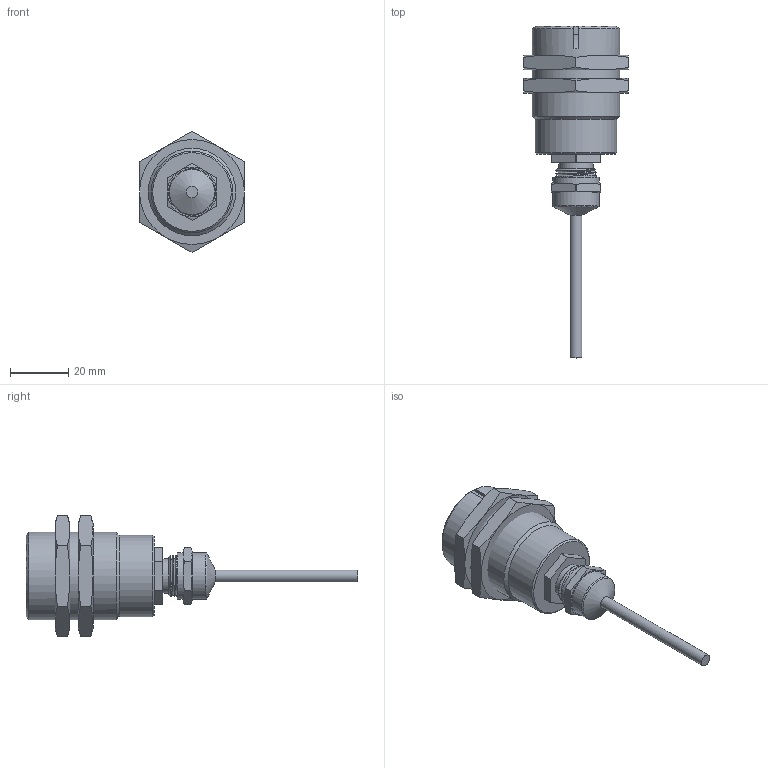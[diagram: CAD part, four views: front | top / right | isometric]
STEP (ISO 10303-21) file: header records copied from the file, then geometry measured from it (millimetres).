
FILE_DESCRIPTION(/* description */ ('Katalogmodell Elobau'),/* implementation_level */ '2;1');
FILE_NAME(/* name */ 'Katalogdaten.stp',/* time_stamp */ '2014-09-10T15:53:22+02:00',/* author */ ('Elobau GmbH & Co. KG'),/* organization */ ('Elobau GmbH & Co. KG'),/* preprocessor_version */ 'ST-DEVELOPER v15',/* originating_system */ 'SIEMENS PLM Software NX 8.5',/* authorisation */ '');
FILE_SCHEMA (('AUTOMOTIVE_DESIGN { 1 0 10303 214 3 1 1 1 }'));
Length unit declared in the file: millimetre
Products named in the file (1): 171271W_B
Bounding box: 36 x 114 x 41.57 mm (x, y, z)
Volume: 45481.6 mm3; surface area: 12863 mm2
Topology: 3 solids, 3 shells, 99 faces, 220 edges, 133 vertices
Faces by surface type: cone 41, plane 41, cylinder 13, bspline 3, torus 1
Full cylindrical faces by diameter (mm): 4.1 x1, 12 x1, 16 x2, 28 x1, 30 x1
Entity records: 3422 total; most frequent: CARTESIAN_POINT 1434, ORIENTED_EDGE 410, DIRECTION 361, EDGE_CURVE 205, AXIS2_PLACEMENT_3D 161, VERTEX_POINT 129, EDGE_LOOP 116, B_SPLINE_CURVE_WITH_KNOTS 102
